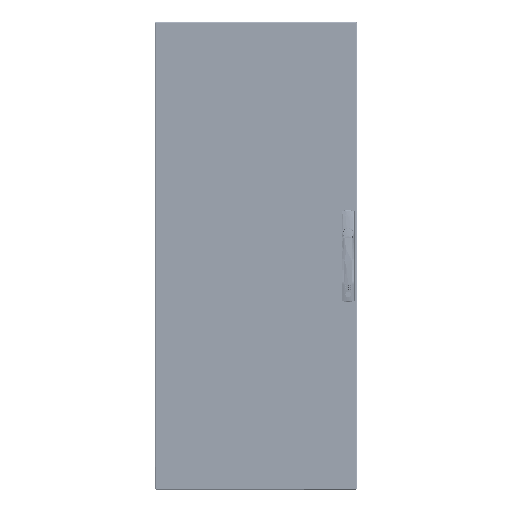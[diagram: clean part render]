
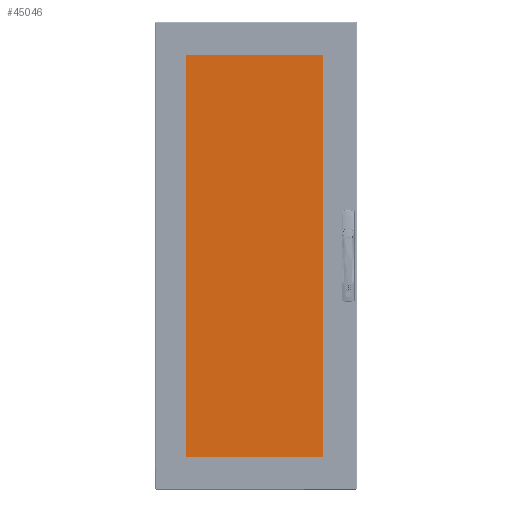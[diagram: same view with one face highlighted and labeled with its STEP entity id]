
A CAD part, top view. The second image highlights one B-rep face of the part: STEP entity #45046.
In plain terms, the highlighted planar face has unit normal (0, 0, 1) as drawn and (0, 0, -1) by its records, which use the part's own axes.
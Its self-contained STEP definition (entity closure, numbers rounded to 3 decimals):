
#1221 = CARTESIAN_POINT ( 'NONE',  ( -216., -608., 0. ) ) ;
#4341 = CARTESIAN_POINT ( 'NONE',  ( -216., -608., 0. ) ) ;
#9542 = LINE ( 'NONE', #64889, #105561 ) ;
#13526 = CARTESIAN_POINT ( 'NONE',  ( -216., 608., 0. ) ) ;
#20865 = VECTOR ( 'NONE', #119482, 1000. ) ;
#24145 = EDGE_CURVE ( 'NONE', #70000, #53004, #95120, .T. ) ;
#30520 = CARTESIAN_POINT ( 'NONE',  ( 216., -608., 0. ) ) ;
#35686 = CARTESIAN_POINT ( 'NONE',  ( -216., 608., 0. ) ) ;
#45046 = ADVANCED_FACE ( 'Face1', ( #102881 ), #53878, .F. ) ;
#49272 = ORIENTED_EDGE ( 'NONE', *, *, #100951, .F. ) ;
#53004 = VERTEX_POINT ( 'NONE', #80437 ) ;
#53232 = ORIENTED_EDGE ( 'NONE', *, *, #82701, .F. ) ;
#53878 = PLANE ( 'NONE',  #100566 ) ;
#55962 = DIRECTION ( 'NONE',  ( 0., 1., 0. ) ) ;
#61083 = VERTEX_POINT ( 'NONE', #30520 ) ;
#63246 = DIRECTION ( 'NONE',  ( 1., 0., 0. ) ) ;
#64889 = CARTESIAN_POINT ( 'NONE',  ( 216., 608., 0. ) ) ;
#70000 = VERTEX_POINT ( 'NONE', #88203 ) ;
#78657 = DIRECTION ( 'NONE',  ( 0., -1., 0. ) ) ;
#78971 = LINE ( 'NONE', #13526, #103657 ) ;
#80437 = CARTESIAN_POINT ( 'NONE',  ( -216., 608., 0. ) ) ;
#82701 = EDGE_CURVE ( 'NONE', #61083, #70000, #9542, .T. ) ;
#83060 = EDGE_LOOP ( 'NONE', ( #117887, #91959, #53232, #49272 ) ) ;
#88203 = CARTESIAN_POINT ( 'NONE',  ( 216., 608., 0. ) ) ;
#89052 = VECTOR ( 'NONE', #115384, 1000. ) ;
#91819 = VERTEX_POINT ( 'NONE', #1221 ) ;
#91959 = ORIENTED_EDGE ( 'NONE', *, *, #24145, .F. ) ;
#91963 = LINE ( 'NONE', #4341, #89052 ) ;
#95120 = LINE ( 'NONE', #35686, #20865 ) ;
#100234 = CARTESIAN_POINT ( 'NONE',  ( -216., -608., 0. ) ) ;
#100566 = AXIS2_PLACEMENT_3D ( 'NONE', #100234, #118963, #63246 ) ;
#100951 = EDGE_CURVE ( 'NONE', #91819, #61083, #91963, .T. ) ;
#102881 = FACE_OUTER_BOUND ( 'NONE', #83060, .T. ) ;
#103657 = VECTOR ( 'NONE', #78657, 1000. ) ;
#105561 = VECTOR ( 'NONE', #55962, 1000. ) ;
#114424 = EDGE_CURVE ( 'NONE', #53004, #91819, #78971, .T. ) ;
#115384 = DIRECTION ( 'NONE',  ( 1., 0., 0. ) ) ;
#117887 = ORIENTED_EDGE ( 'NONE', *, *, #114424, .F. ) ;
#118963 = DIRECTION ( 'NONE',  ( 0., 0., 1. ) ) ;
#119482 = DIRECTION ( 'NONE',  ( -1., 0., 0. ) ) ;
